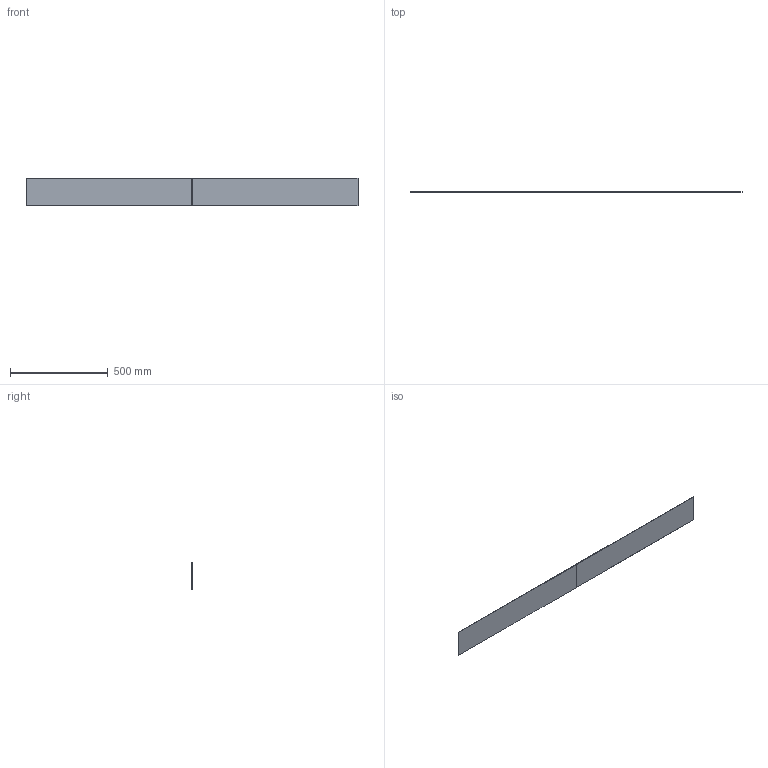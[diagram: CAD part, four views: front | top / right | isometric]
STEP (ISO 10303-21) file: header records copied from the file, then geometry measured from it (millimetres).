
FILE_DESCRIPTION(/* description */ (''),/* implementation_level */ '2;1');
FILE_NAME(/* name */ 'DOOR-P~4',/* time_stamp */ '2014-02-14T19:51:03+01:00',/* author */ (''),/* organization */ (''),/* preprocessor_version */ 'ST-DEVELOPER v14',/* originating_system */ '',/* authorisation */ '');
FILE_SCHEMA (('AUTOMOTIVE_DESIGN'));
Length unit declared in the file: millimetre
Products named in the file (1): Document
Bounding box: 1696 x 3 x 143 mm (x, y, z)
Volume: 726726 mm3; surface area: 496364 mm2
Topology: 2 solids, 2 shells, 12 faces, 24 edges, 16 vertices
Faces by surface type: plane 12
Entity records: 571 total; most frequent: CARTESIAN_POINT 174, B_SPLINE_CURVE_WITH_KNOTS 72, ORIENTED_EDGE 48, PCURVE 48, DEFINITIONAL_REPRESENTATION 48, SURFACE_CURVE 24, EDGE_CURVE 24, VERTEX_POINT 16
